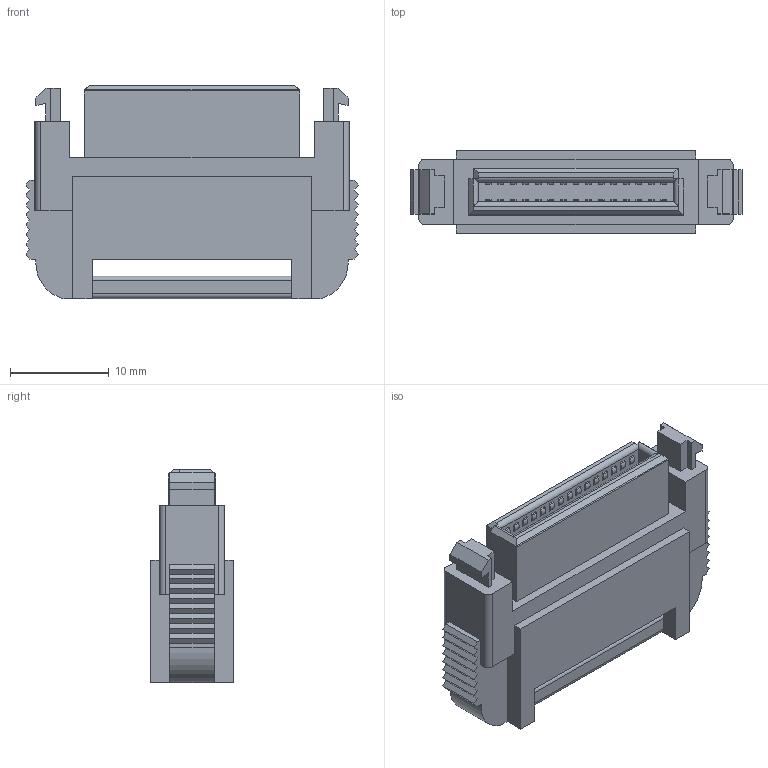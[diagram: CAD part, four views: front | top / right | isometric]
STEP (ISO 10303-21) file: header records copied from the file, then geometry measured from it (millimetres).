
FILE_DESCRIPTION(('Creo Elements/Direct Modeling STEP Export'),'2;1');
FILE_NAME('P3D800_8822-030-171X-F.stp','2023-03-28T10:28:55',(''),(''),'Creo Elements/Direct Modeling STEP processor for AP214 (Solid Model)','Creo Elements/Direct Modeling 20.4A 18-Oct-2021 (C) Parametric Technology GmbH','');
FILE_SCHEMA(('AUTOMOTIVE_DESIGN { 1 0 10303 214 1 1 1 1 }'));
Length unit declared in the file: millimetre
Products named in the file (2): 8822-030-171-F
Assembly tree (1 placements, depth 2):
  8822-030-171-F
    8822-030-171-F
Bounding box: 33.58 x 8.4 x 21.6 mm (x, y, z)
Volume: 3601.6 mm3; surface area: 2841.6 mm2
Topology: 1 solids, 1 shells, 502 faces, 1338 edges, 870 vertices
Faces by surface type: plane 395, cylinder 107
Entity records: 14664 total; most frequent: ORIENTED_EDGE 2676, CARTESIAN_POINT 2530, DIRECTION 2313, EDGE_CURVE 1338, VECTOR 1007, LINE 1007, VERTEX_POINT 870, AXIS2_PLACEMENT_3D 653
